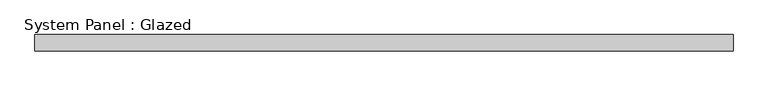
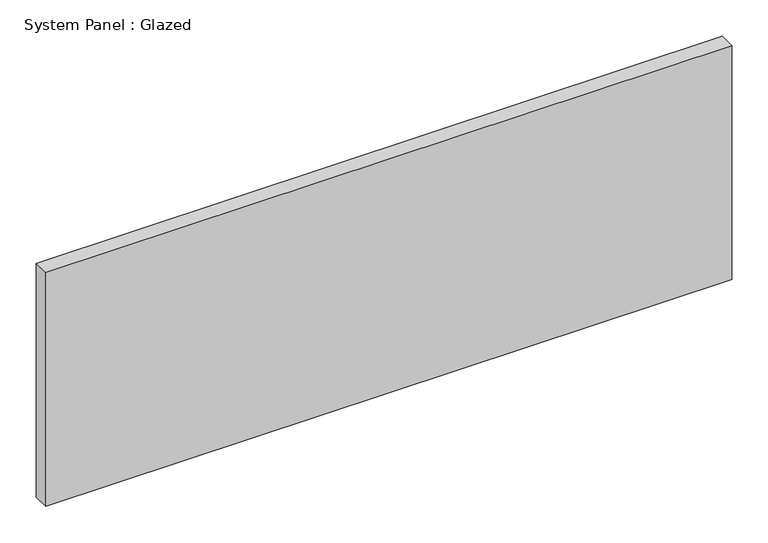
"""IFC4 building model written with IfcOpenShell, lengths in millimetres: plate geometry, System Panel : Glazed."""

from ifc_helpers import new_model, si_unit, origin, origin_with_axes, place, context, project, spatial, polyline, outline, extrude, source, transform, mapped, element, save


def system_panel_glazed_3e6a038e(model_context):
    return source(origin(), model_context, "Body", "SweptSolid", [
        extrude(outline(polyline([(544.1949999, -44.45), (-544.1949999, -44.45), (-544.1949999, -19.05), (544.1949999, -19.05), (544.1949999, -44.45)])), origin_with_axes(), (0.0, 0.0, 1.0), 392.43),
    ])


if __name__ == "__main__":
    model = new_model("IFC4")
    model_context = context("Model", 3, world=origin())
    ifc_project = project(units=[si_unit("LENGTHUNIT", "METRE", prefix="MILLI")], contexts=[model_context])
    site = spatial("IfcSite", under=ifc_project)
    building = spatial("IfcBuilding", under=site)
    placement = place(None, origin())
    system_panel_glazed_shape = system_panel_glazed_3e6a038e(model_context)
    element("IfcPlate", 1, ObjectType="System Panel : Glazed", at=placement, inside=building, context=model_context, shape_type="MappedRepresentation", body=[
        mapped(system_panel_glazed_shape, transform((0.0, 0.0, 0.0), x_axis=(1.0, 0.0, 0.0), y_axis=(0.0, 1.0, 0.0), z_axis=(0.0, 0.0, 1.0))),
    ])
    save(model, "model.ifc")
